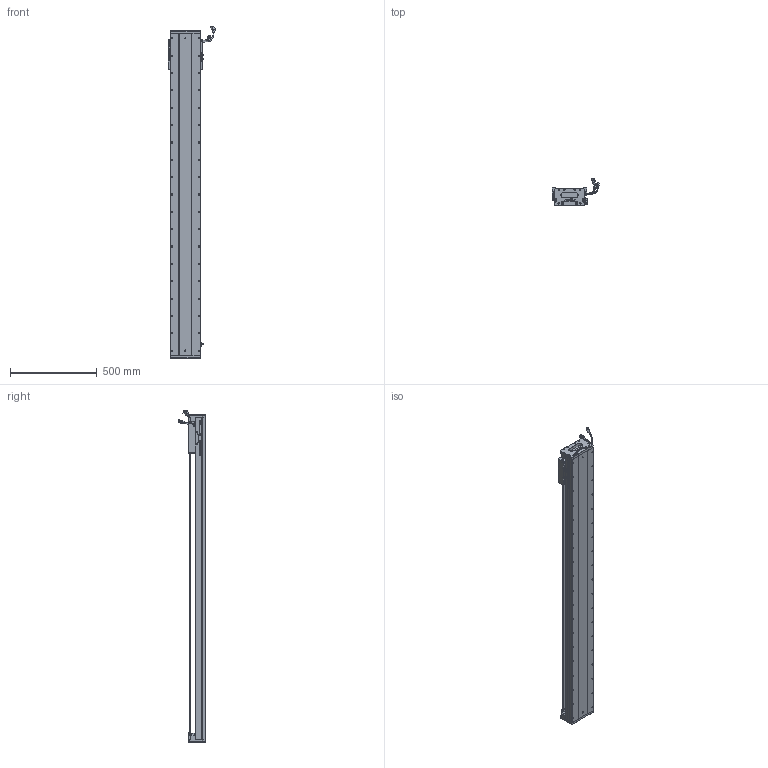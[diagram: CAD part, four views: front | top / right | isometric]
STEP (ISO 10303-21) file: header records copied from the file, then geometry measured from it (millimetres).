
FILE_DESCRIPTION (( 'STEP AP203' ), '1' );
FILE_NAME ('Z2-RY170D-1-L500-B-K.SLDASM_1600.step', '2021-05-17T09:08:36', ( '盈信电脑' ), ( '东莞市道滘镇水果街19号' ), 'SwSTEP 2.0', 'SolidWorks 2016', '' );
FILE_SCHEMA (( 'CONFIG_CONTROL_DESIGN' ));
Length unit declared in the file: millimetre
Products named in the file (36): Z2-RY170-L500耀郪菁釱_1600; SEAL-Part-1; SCREW-M1.6-1; 140雄赽晤鎢ん堤盄; SCALE-Part-1; LABEL-Part-1; PSLH080_PSLF2; SCREW-M1.6-2; SCALE-Part-2; SCALE; SCREW-M1.7-1; SCREW-M1.6-3; Z2-RY170D-1-L500-B-K.SLDASM_1600; 140蚥薯蝶輸; PBU_SHEET; COVER; SEAL; Z-RY170詩湍奻揤裔; Z2-RY170-L500詩湍145mm遵_1600; HOLDER0; 080黍杅芛假蚾釱21遴; LABEL; HARNESS-Part-2; RY170直线电机感应器672光电感应片; 榋妏寠巭燃_暯_M2_2; Z2-RY170臏賑輸(21遴); HARNESS-Part-1; 170-Z-臏賑輸盄裔(21遴); HARNESS; Z-170詩湍傷裔啣; SCREW-M1.7; COVER-Part-1; SCREW-M1.6; 覜茼ん672; Z-RY170詩湍狟揤裔; SHIELDPLATE
Assembly tree (41 placements, depth 4):
  Z2-RY170D-1-L500-B-K.SLDASM_1600
    Z2-RY170-L500耀郪菁釱_1600
    RY170直线电机感应器672光电感应片
    Z2-RY170臏賑輸(21遴)
    覜茼ん672  x3
    PSLH080_PSLF2
      SCALE
        SCALE-Part-1
        SCALE-Part-2
      HARNESS
        HARNESS-Part-1
        HARNESS-Part-2
      LABEL
        LABEL-Part-1
      COVER
        COVER-Part-1
      SEAL
        SEAL-Part-1
      榋妏寠巭燃_暯_M2_2
      SHIELDPLATE
      SCREW-M1.7
      SCREW-M1.7-1
      PBU_SHEET
      SCREW-M1.6
      SCREW-M1.6-1
      SCREW-M1.6-2
      SCREW-M1.6-3
      HOLDER0
    080黍杅芛假蚾釱21遴
    Z2-RY170-L500詩湍145mm遵_1600
    Z-170詩湍傷裔啣  x2
    Z-RY170詩湍奻揤裔  x2
    Z-RY170詩湍狟揤裔  x2
    140蚥薯蝶輸  x2
    170-Z-臏賑輸盄裔(21遴)
    140雄赽晤鎢ん堤盄
Bounding box: 275.33 x 158.11 x 1913.72 mm (x, y, z)
Volume: 9722762.1 mm3; surface area: 2399341.7 mm2
Topology: 36 solids, 36 shells, 3604 faces, 9871 edges, 6185 vertices
Faces by surface type: cylinder 1750, plane 1248, cone 484, torus 69, bspline 53
Entity records: 110747 total; most frequent: CARTESIAN_POINT 30074, ORIENTED_EDGE 16378, DIRECTION 15541, EDGE_CURVE 8189, AXIS2_PLACEMENT_3D 5710, VERTEX_POINT 5303, LINE 4121, VECTOR 4121
